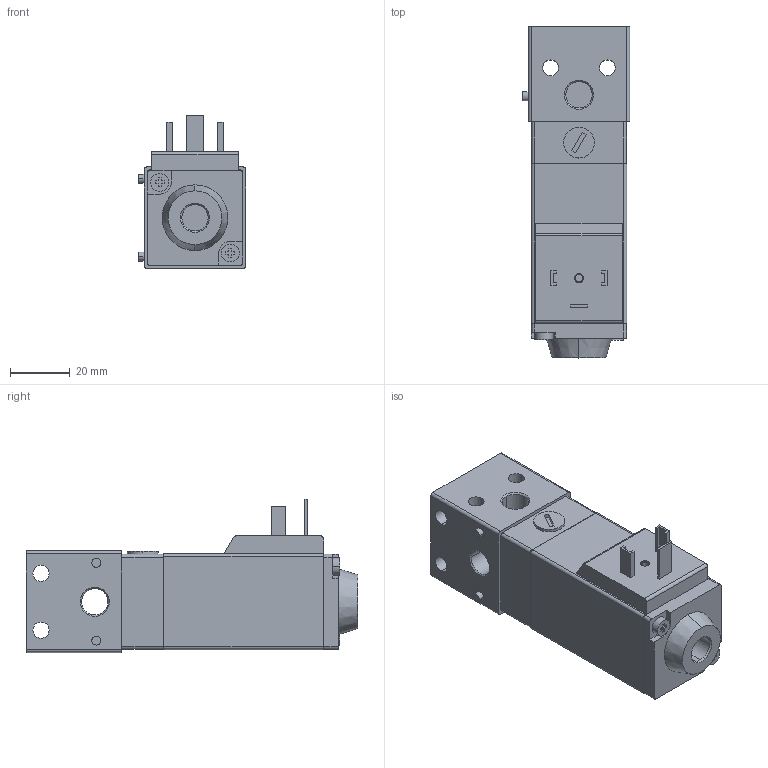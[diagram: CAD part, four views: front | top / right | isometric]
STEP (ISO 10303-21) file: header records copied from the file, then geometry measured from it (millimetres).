
FILE_DESCRIPTION((''),'2;1');
FILE_NAME('0820005150','2024-06-17T09:55:59',('GND7HC'),(''),'CREO PARAMETRIC BY PTC INC, 2023092','CREO PARAMETRIC BY PTC INC, 2023092','');
FILE_SCHEMA(('CONFIG_CONTROL_DESIGN','SHAPE_APPEARANCE_LAYERS_GROUPS'));
Length unit declared in the file: millimetre
Products named in the file (1): 0820005150
Bounding box: 36 x 111 x 51.2 mm (x, y, z)
Volume: 112065.8 mm3; surface area: 20926.8 mm2
Topology: 1 solids, 1 shells, 159 faces, 400 edges, 264 vertices
Faces by surface type: plane 97, cylinder 52, cone 10
Entity records: 7650 total; most frequent: DIRECTION 834, CARTESIAN_POINT 823, ORIENTED_EDGE 800, PRESENTATION_STYLE_ASSIGNMENT 557, STYLED_ITEM 455, CURVE_STYLE 400, EDGE_CURVE 400, VECTOR 284
